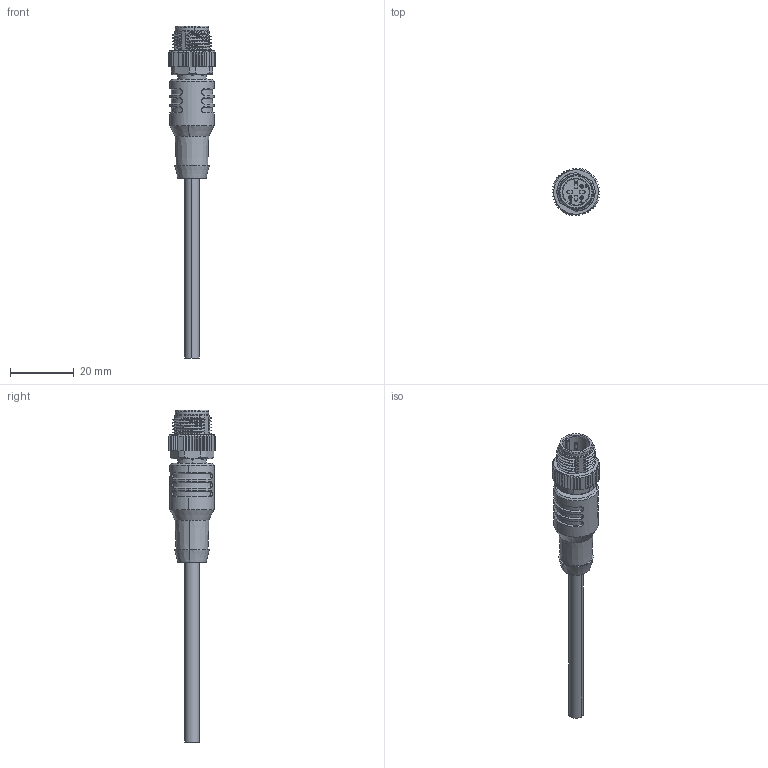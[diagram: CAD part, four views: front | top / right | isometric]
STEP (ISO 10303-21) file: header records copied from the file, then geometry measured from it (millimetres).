
FILE_DESCRIPTION (( 'STEP AP203' ), '1' );
FILE_NAME ('M12 3针 A 公直47.8 （小包胶体31 螺丝更新）.STEP', '2024-12-04T07:36:56', ( 'L' ), ( '' ), 'SwSTEP 2.0', 'SolidWorks 2019', '' );
FILE_SCHEMA (( 'CONFIG_CONTROL_DESIGN' ));
Length unit declared in the file: millimetre
Products named in the file (1): M12 3针 A 公直47.8 （小包胶体31 螺丝更新）
Bounding box: 14.99 x 15 x 104.37 mm (x, y, z)
Volume: 6068.9 mm3; surface area: 4527.6 mm2
Topology: 1 solids, 1 shells, 705 faces, 2021 edges, 1342 vertices
Faces by surface type: plane 338, cylinder 194, bspline 78, cone 73, torus 22
Entity records: 37860 total; most frequent: CARTESIAN_POINT 20716, ORIENTED_EDGE 4042, DIRECTION 2897, EDGE_CURVE 2021, VERTEX_POINT 1342, AXIS2_PLACEMENT_3D 999, LINE 899, VECTOR 899
